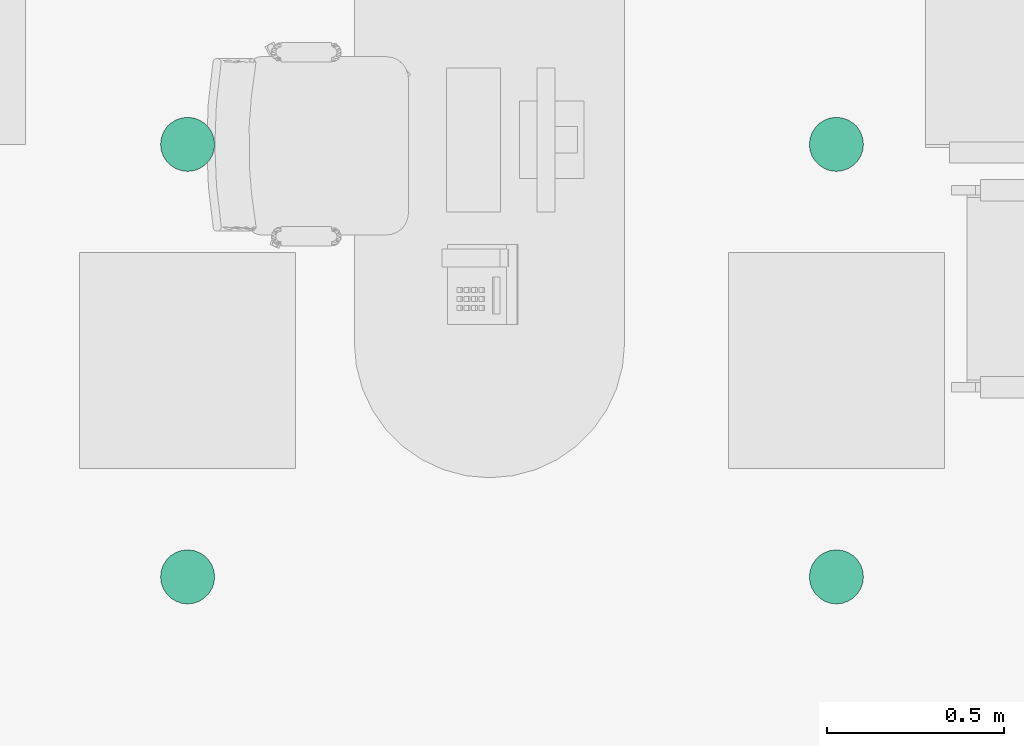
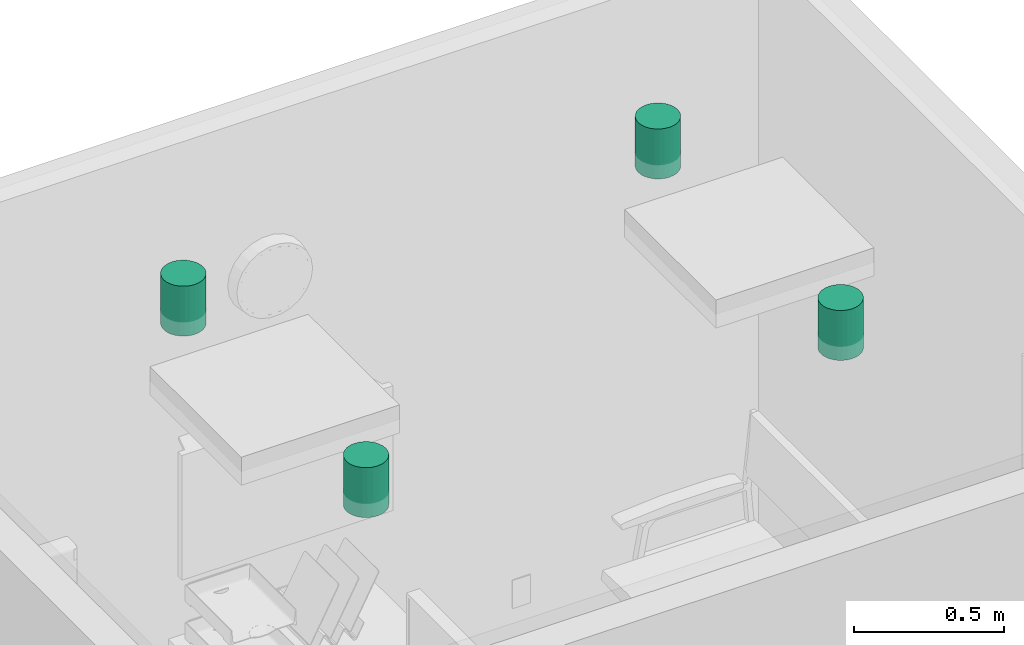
# One storey, part 5 of 10: 4 flow terminals.
"""IFC2X3 building model written with IfcOpenShell, lengths in feet."""

from ifc_helpers import new_model, entity, si_unit, converted_unit, derived_unit, direction, frame, frame_2d, origin, place, context, subcontext, project, spatial, circle, extrude, source, transform, mapped, type_object, type_shapes, element, save


model = new_model("IFC2X3")

# Units and contexts
model_context = context("Model", 3, precision=0.0001, world=origin(), true_north=direction((6.12303176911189e-17, 1.0)))
body_context = subcontext(model_context, "Body", "Model", "MODEL_VIEW")
ifc_project = project(units=[converted_unit("LENGTHUNIT", "FOOT", entity("IfcRatioMeasure", 0.3048), si_unit("LENGTHUNIT", "METRE"), dimensions=[1, 0, 0, 0, 0, 0, 0]), converted_unit("AREAUNIT", "SQUARE FOOT", entity("IfcRatioMeasure", 0.09290304), si_unit("AREAUNIT", "SQUARE_METRE"), dimensions=[2, 0, 0, 0, 0, 0, 0]), converted_unit("VOLUMEUNIT", "CUBIC FOOT", entity("IfcRatioMeasure", 0.028316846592), si_unit("VOLUMEUNIT", "CUBIC_METRE"), dimensions=[3, 0, 0, 0, 0, 0, 0]), converted_unit("PLANEANGLEUNIT", "DEGREE", entity("IfcRatioMeasure", 0.0174532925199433), si_unit("PLANEANGLEUNIT", "RADIAN"), dimensions=[0, 0, 0, 0, 0, 0, 0]), si_unit("MASSUNIT", "GRAM", prefix="KILO"), derived_unit("MASSDENSITYUNIT", [(si_unit("MASSUNIT", "GRAM", prefix="KILO"), 1), (si_unit("LENGTHUNIT", "METRE"), -3)]), si_unit("TIMEUNIT", "SECOND"), si_unit("FREQUENCYUNIT", "HERTZ"), si_unit("THERMODYNAMICTEMPERATUREUNIT", "DEGREE_CELSIUS"), derived_unit("THERMALTRANSMITTANCEUNIT", [(si_unit("MASSUNIT", "GRAM", prefix="KILO"), 1), (si_unit("THERMODYNAMICTEMPERATUREUNIT", "KELVIN"), -1), (si_unit("TIMEUNIT", "SECOND"), -3)]), derived_unit("VOLUMETRICFLOWRATEUNIT", [(si_unit("LENGTHUNIT", "METRE"), 3), (si_unit("TIMEUNIT", "SECOND"), -1)]), si_unit("ELECTRICCURRENTUNIT", "AMPERE"), si_unit("ELECTRICVOLTAGEUNIT", "VOLT"), si_unit("POWERUNIT", "WATT"), si_unit("FORCEUNIT", "NEWTON"), si_unit("ILLUMINANCEUNIT", "LUX"), si_unit("LUMINOUSFLUXUNIT", "LUMEN"), si_unit("LUMINOUSINTENSITYUNIT", "CANDELA"), derived_unit("USERDEFINED", [(si_unit("MASSUNIT", "GRAM", prefix="KILO"), -1), (si_unit("LENGTHUNIT", "METRE"), -2), (si_unit("TIMEUNIT", "SECOND"), 3), (si_unit("LUMINOUSFLUXUNIT", "LUMEN"), 1)]), derived_unit("LINEARVELOCITYUNIT", [(si_unit("LENGTHUNIT", "METRE"), 1), (si_unit("TIMEUNIT", "SECOND"), -1)]), si_unit("PRESSUREUNIT", "PASCAL"), derived_unit("USERDEFINED", [(si_unit("LENGTHUNIT", "METRE"), -2), (si_unit("MASSUNIT", "GRAM", prefix="KILO"), 1), (si_unit("TIMEUNIT", "SECOND"), -2)])], contexts=[model_context])

# Site, building, storey, space
site_placement = place(None, origin())
site = spatial("IfcSite", under=ifc_project, at=site_placement, Name="Default", CompositionType="ELEMENT")
building_placement = place(site_placement, origin())
building = spatial("IfcBuilding", under=site, at=building_placement, Name="OUTPATIENT / PACT CLINIC (Ch. 265)", CompositionType="ELEMENT")
storey_placement = place(building_placement, origin())
storey = spatial("IfcBuildingStorey", under=building, at=storey_placement, Name="DATUM", CompositionType="ELEMENT", Elevation=0.0)
space_placement = place(storey_placement, origin())
space = spatial("IfcSpace", under=storey, at=space_placement, Name="OFDC2", CompositionType="ELEMENT", InteriorOrExteriorSpace="INTERNAL")

# Flow terminals
light_fixture_type = type_object("IfcLightFixtureType", Name="6\"", PredefinedType="NOTDEFINED")
shared_shape = source(origin(), body_context, "Body", "SweptSolid", [
    extrude(circle(Radius=0.25, at=frame_2d((0.0, -3.88578058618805e-16), x_axis=(1.0, 0.0))), frame((0.132132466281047, -0.159583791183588, 7.99242651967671)), (0.0, 0.0, 1.0), 0.666666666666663),
])
type_shapes(light_fixture_type, [shared_shape])
for number, where in (
    (1, (-74.8874967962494, -854.530866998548, 1.00757348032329)),
    (2, (-74.8874967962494, -858.530866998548, 1.00757348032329)),
    (3, (-68.8874967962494, -858.530866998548, 1.00757348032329)),
    (4, (-68.8874967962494, -854.530866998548, 1.00757348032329)),
):
    element("IfcFlowTerminal", number, at=place(space_placement, frame(where)), inside=space, type_object=light_fixture_type, Name="Downlight - Recessed Can:6\"", ObjectType="6\"", context=body_context, shape_type="MappedRepresentation", body=[
        mapped(shared_shape, transform((0.0, 0.0, 0.0), scale=1.0)),
    ])

save(model, "model.ifc")
